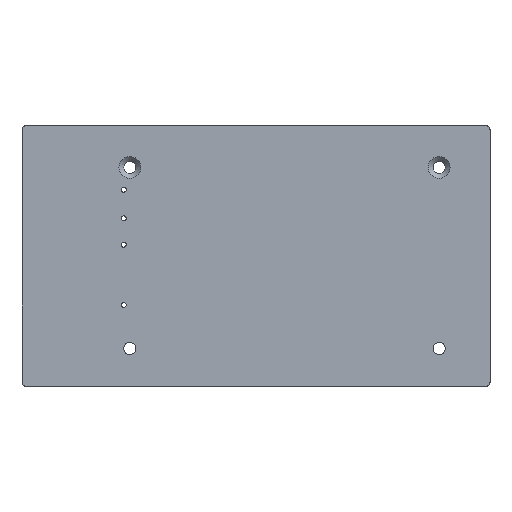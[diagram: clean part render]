
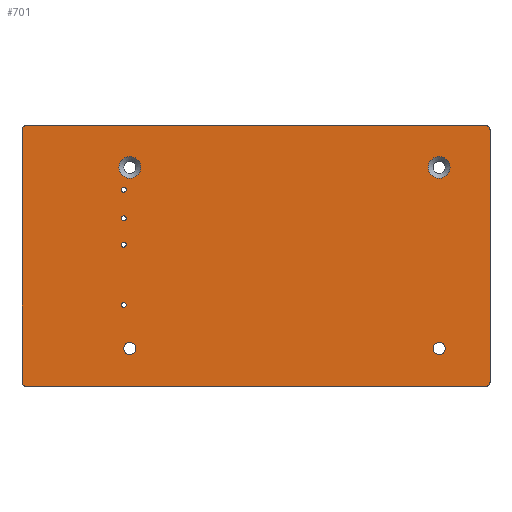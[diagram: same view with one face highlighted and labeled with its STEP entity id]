
A CAD part, top view. The second image highlights one B-rep face of the part: STEP entity #701.
In plain terms, the highlighted planar face has unit normal (0, 0, 1).
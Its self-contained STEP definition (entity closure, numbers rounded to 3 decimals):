
#701=ADVANCED_FACE('',(#1815,#1817,#1819,#1821,#1823,#1825,#1827,#1829,#1831),#1833,
.T.);
#1815=FACE_BOUND('',#1816,.T.);
#1816=EDGE_LOOP('',(#2777,#2778,#2779,#2780,#2781,#2782,#2783,#2784));
#1817=FACE_BOUND('',#1818,.T.);
#1818=EDGE_LOOP('',(#2785));
#1819=FACE_BOUND('',#1820,.T.);
#1820=EDGE_LOOP('',(#2786));
#1821=FACE_BOUND('',#1822,.T.);
#1822=EDGE_LOOP('',(#2787));
#1823=FACE_BOUND('',#1824,.T.);
#1824=EDGE_LOOP('',(#2788));
#1825=FACE_BOUND('',#1826,.T.);
#1826=EDGE_LOOP('',(#2789));
#1827=FACE_BOUND('',#1828,.T.);
#1828=EDGE_LOOP('',(#2790));
#1829=FACE_BOUND('',#1830,.T.);
#1830=EDGE_LOOP('',(#2791));
#1831=FACE_BOUND('',#1832,.T.);
#1832=EDGE_LOOP('',(#2792));
#1833=PLANE('',#1834);
#1834=AXIS2_PLACEMENT_3D('',#1835,#1836,#1837);
#1835=CARTESIAN_POINT('',(0.,0.,24.5));
#1836=DIRECTION('',(0.,0.,1.));
#1837=DIRECTION('',(-1.,0.,0.));
#2777=ORIENTED_EDGE('',*,*,#3287,.F.);
#2778=ORIENTED_EDGE('',*,*,#3184,.T.);
#2779=ORIENTED_EDGE('',*,*,#3303,.F.);
#2780=ORIENTED_EDGE('',*,*,#3304,.T.);
#2781=ORIENTED_EDGE('',*,*,#3305,.F.);
#2782=ORIENTED_EDGE('',*,*,#3306,.T.);
#2783=ORIENTED_EDGE('',*,*,#3307,.F.);
#2784=ORIENTED_EDGE('',*,*,#3308,.T.);
#2785=ORIENTED_EDGE('',*,*,#3209,.T.);
#2786=ORIENTED_EDGE('',*,*,#3309,.T.);
#2787=ORIENTED_EDGE('',*,*,#3310,.T.);
#2788=ORIENTED_EDGE('',*,*,#3311,.T.);
#2789=ORIENTED_EDGE('',*,*,#3312,.T.);
#2790=ORIENTED_EDGE('',*,*,#3313,.T.);
#2791=ORIENTED_EDGE('',*,*,#3314,.T.);
#2792=ORIENTED_EDGE('',*,*,#3249,.F.);
#3184=EDGE_CURVE('',#3680,#3689,#3691,.T.);
#3209=EDGE_CURVE('',#3730,#3730,#3731,.F.);
#3249=EDGE_CURVE('',#3796,#3796,#3797,.T.);
#3287=EDGE_CURVE('',#3680,#3859,#3861,.F.);
#3303=EDGE_CURVE('',#3888,#3689,#3890,.F.);
#3304=EDGE_CURVE('',#3888,#3891,#3892,.T.);
#3305=EDGE_CURVE('',#3893,#3891,#3894,.F.);
#3306=EDGE_CURVE('',#3893,#3895,#3896,.T.);
#3307=EDGE_CURVE('',#3897,#3895,#3898,.F.);
#3308=EDGE_CURVE('',#3897,#3859,#3899,.T.);
#3309=EDGE_CURVE('',#3900,#3900,#3901,.T.);
#3310=EDGE_CURVE('',#3902,#3902,#3903,.T.);
#3311=EDGE_CURVE('',#3904,#3904,#3905,.T.);
#3312=EDGE_CURVE('',#3906,#3906,#3907,.T.);
#3313=EDGE_CURVE('',#3908,#3908,#3909,.T.);
#3314=EDGE_CURVE('',#3910,#3910,#3911,.T.);
#3680=VERTEX_POINT('',#4491);
#3689=VERTEX_POINT('',#4510);
#3691=LINE('',#4514,#4515);
#3730=VERTEX_POINT('',#4607);
#3731=CIRCLE('',#4608,1.5);
#3796=VERTEX_POINT('',#4759);
#3797=CIRCLE('',#4760,1.5);
#3859=VERTEX_POINT('',#4906);
#3861=CIRCLE('',#4910,1.);
#3888=VERTEX_POINT('',#4974);
#3890=CIRCLE('',#4978,1.);
#3891=VERTEX_POINT('',#4982);
#3892=LINE('',#4983,#4984);
#3893=VERTEX_POINT('',#4986);
#3894=CIRCLE('',#4987,1.);
#3895=VERTEX_POINT('',#4991);
#3896=LINE('',#4992,#4993);
#3897=VERTEX_POINT('',#4995);
#3898=CIRCLE('',#4996,1.);
#3899=LINE('',#5000,#5001);
#3900=VERTEX_POINT('',#5003);
#3901=CIRCLE('',#5004,2.7);
#3902=VERTEX_POINT('',#5008);
#3903=CIRCLE('',#5009,0.6);
#3904=VERTEX_POINT('',#5013);
#3905=CIRCLE('',#5014,0.6);
#3906=VERTEX_POINT('',#5018);
#3907=CIRCLE('',#5019,0.6);
#3908=VERTEX_POINT('',#5023);
#3909=CIRCLE('',#5024,0.6);
#3910=VERTEX_POINT('',#5028);
#3911=CIRCLE('',#5029,2.7);
#4491=CARTESIAN_POINT('',(-108.5,-63.,24.5));
#4510=CARTESIAN_POINT('',(4.5,-63.,24.5));
#4514=CARTESIAN_POINT('',(-108.5,-63.,24.5));
#4515=VECTOR('',#4516,1.);
#4516=DIRECTION('',(1.,0.,0.));
#4607=CARTESIAN_POINT('',(-84.5,-53.75,24.5));
#4608=AXIS2_PLACEMENT_3D('',#4609,#4610,#4611);
#4609=CARTESIAN_POINT('',(-83.,-53.75,24.5));
#4610=DIRECTION('',(0.,0.,1.));
#4611=DIRECTION('',(-1.,0.,0.));
#4759=CARTESIAN_POINT('',(-8.5,-53.75,24.5));
#4760=AXIS2_PLACEMENT_3D('',#4761,#4762,#4763);
#4761=CARTESIAN_POINT('',(-7.,-53.75,24.5));
#4762=DIRECTION('',(0.,0.,1.));
#4763=DIRECTION('',(-1.,0.,0.));
#4906=CARTESIAN_POINT('',(-109.5,-62.,24.5));
#4910=AXIS2_PLACEMENT_3D('',#4911,#4912,#4913);
#4911=CARTESIAN_POINT('',(-108.5,-62.,24.5));
#4912=DIRECTION('',(0.,0.,1.));
#4913=DIRECTION('',(-1.,0.,0.));
#4974=CARTESIAN_POINT('',(5.5,-62.,24.5));
#4978=AXIS2_PLACEMENT_3D('',#4979,#4980,#4981);
#4979=CARTESIAN_POINT('',(4.5,-62.,24.5));
#4980=DIRECTION('',(0.,0.,1.));
#4981=DIRECTION('',(0.,-1.,0.));
#4982=CARTESIAN_POINT('',(5.5,0.,24.5));
#4983=CARTESIAN_POINT('',(5.5,-62.,24.5));
#4984=VECTOR('',#4985,1.);
#4985=DIRECTION('',(0.,1.,0.));
#4986=CARTESIAN_POINT('',(4.5,1.,24.5));
#4987=AXIS2_PLACEMENT_3D('',#4988,#4989,#4990);
#4988=CARTESIAN_POINT('',(4.5,0.,24.5));
#4989=DIRECTION('',(0.,0.,1.));
#4990=DIRECTION('',(1.,0.,0.));
#4991=CARTESIAN_POINT('',(-108.5,1.,24.5));
#4992=CARTESIAN_POINT('',(4.5,1.,24.5));
#4993=VECTOR('',#4994,1.);
#4994=DIRECTION('',(-1.,0.,0.));
#4995=CARTESIAN_POINT('',(-109.5,0.,24.5));
#4996=AXIS2_PLACEMENT_3D('',#4997,#4998,#4999);
#4997=CARTESIAN_POINT('',(-108.5,0.,24.5));
#4998=DIRECTION('',(0.,0.,1.));
#4999=DIRECTION('',(0.,1.,0.));
#5000=CARTESIAN_POINT('',(-109.5,0.,24.5));
#5001=VECTOR('',#5002,1.);
#5002=DIRECTION('',(0.,-1.,0.));
#5003=CARTESIAN_POINT('',(-9.7,-9.25,24.5));
#5004=AXIS2_PLACEMENT_3D('',#5005,#5006,#5007);
#5005=CARTESIAN_POINT('',(-7.,-9.25,24.5));
#5006=DIRECTION('',(-0.,-0.,-1.));
#5007=DIRECTION('',(-1.,0.,0.));
#5008=CARTESIAN_POINT('',(-85.1,-14.75,24.5));
#5009=AXIS2_PLACEMENT_3D('',#5010,#5011,#5012);
#5010=CARTESIAN_POINT('',(-84.5,-14.75,24.5));
#5011=DIRECTION('',(-0.,-0.,-1.));
#5012=DIRECTION('',(-1.,0.,0.));
#5013=CARTESIAN_POINT('',(-85.1,-43.05,24.5));
#5014=AXIS2_PLACEMENT_3D('',#5015,#5016,#5017);
#5015=CARTESIAN_POINT('',(-84.5,-43.05,24.5));
#5016=DIRECTION('',(-0.,-0.,-1.));
#5017=DIRECTION('',(-1.,0.,0.));
#5018=CARTESIAN_POINT('',(-85.1,-28.25,24.5));
#5019=AXIS2_PLACEMENT_3D('',#5020,#5021,#5022);
#5020=CARTESIAN_POINT('',(-84.5,-28.25,24.5));
#5021=DIRECTION('',(-0.,-0.,-1.));
#5022=DIRECTION('',(-1.,0.,0.));
#5023=CARTESIAN_POINT('',(-85.1,-21.75,24.5));
#5024=AXIS2_PLACEMENT_3D('',#5025,#5026,#5027);
#5025=CARTESIAN_POINT('',(-84.5,-21.75,24.5));
#5026=DIRECTION('',(-0.,-0.,-1.));
#5027=DIRECTION('',(-1.,0.,0.));
#5028=CARTESIAN_POINT('',(-85.7,-9.25,24.5));
#5029=AXIS2_PLACEMENT_3D('',#5030,#5031,#5032);
#5030=CARTESIAN_POINT('',(-83.,-9.25,24.5));
#5031=DIRECTION('',(-0.,-0.,-1.));
#5032=DIRECTION('',(-1.,0.,0.));
